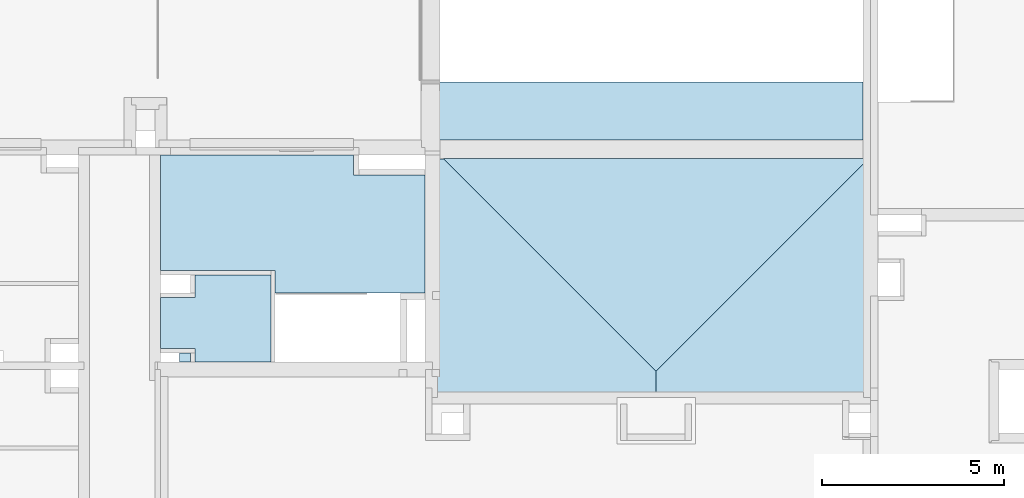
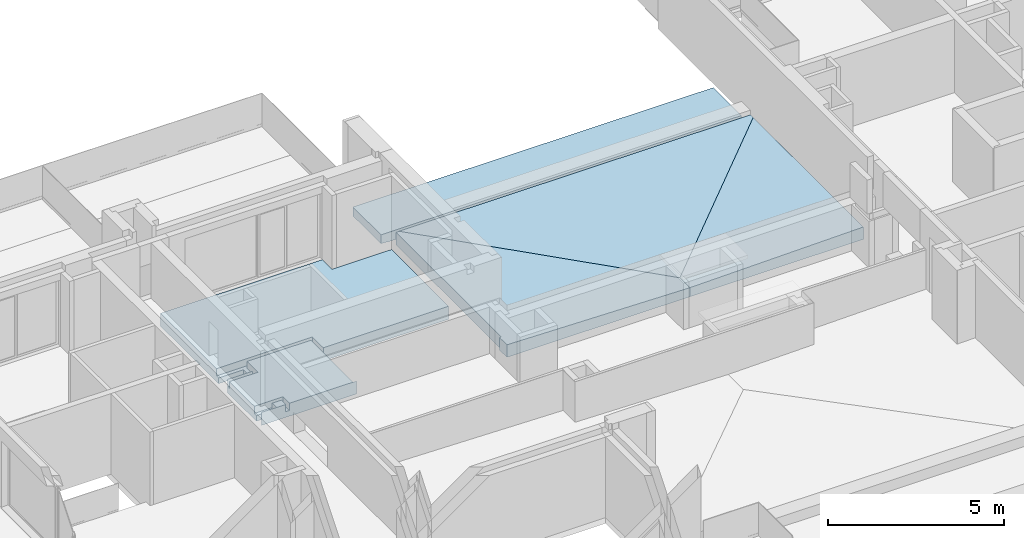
# One storey, part 5 of 30: 5 slabs.
"""IFC2X3 building model written with IfcOpenShell, lengths in millimetres."""

from ifc_helpers import new_model, entity, si_unit, converted_unit, derived_unit, money_unit, direction, frame, origin_with_axes, place, context, subcontext, project, spatial, faceted_brep, material, material_list, type_object, element, save


model = new_model("IFC2X3")

# Units and contexts
model_context = context("Model", 3, precision=0.01, world=origin_with_axes(), true_north=direction((0.34421633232, 0.938890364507)))
body_context = subcontext(model_context, "Body", "Model", "MODEL_VIEW")
ifc_project = project(units=[si_unit("LENGTHUNIT", "METRE", prefix="MILLI"), si_unit("AREAUNIT", "SQUARE_METRE"), si_unit("VOLUMEUNIT", "CUBIC_METRE"), converted_unit("PLANEANGLEUNIT", "DEGREE", entity("IfcPlaneAngleMeasure", 0.0174532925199), si_unit("PLANEANGLEUNIT", "RADIAN"), dimensions=[0, 0, 0, 0, 0, 0, 0]), si_unit("SOLIDANGLEUNIT", "STERADIAN"), money_unit("USD"), converted_unit("TIMEUNIT", "Year", entity("IfcTimeMeasure", 31556926.0), si_unit("TIMEUNIT", "SECOND"), dimensions=[0, 0, 1, 0, 0, 0, 0]), si_unit("MASSUNIT", "GRAM", prefix="KILO"), si_unit("THERMODYNAMICTEMPERATUREUNIT", "DEGREE_CELSIUS"), si_unit("LUMINOUSINTENSITYUNIT", "LUMEN"), si_unit("ENERGYUNIT", "JOULE", prefix="MEGA"), derived_unit("THERMALCONDUCTANCEUNIT", [(si_unit("POWERUNIT", "WATT"), 1), (si_unit("LENGTHUNIT", "METRE"), -1), (si_unit("THERMODYNAMICTEMPERATUREUNIT", "KELVIN"), -1)]), derived_unit("SPECIFICHEATCAPACITYUNIT", [(si_unit("ENERGYUNIT", "JOULE"), 1), (si_unit("MASSUNIT", "GRAM", prefix="KILO"), -1), (si_unit("THERMODYNAMICTEMPERATUREUNIT", "KELVIN"), -1)]), derived_unit("MASSDENSITYUNIT", [(si_unit("MASSUNIT", "GRAM", prefix="KILO"), 1), (si_unit("VOLUMEUNIT", "CUBIC_METRE"), -1)])], contexts=[model_context])

# Site, building, storey
site_placement = place(None, origin_with_axes())
site = spatial("IfcSite", under=ifc_project, at=site_placement, Name="USTRONIE MORSKIE", CompositionType="ELEMENT")
building_placement = place(site_placement, origin_with_axes())
building = spatial("IfcBuilding", under=site, at=building_placement, Name="Budynek", CompositionType="ELEMENT")
storey_placement = place(building_placement, frame((0.0, 0.0, 16000.0), z_axis=(0.0, 0.0, 1.0), x_axis=(1.0, 0.0, 0.0)))
storey = spatial("IfcBuildingStorey", under=building, at=storey_placement, Name="ANTRESOLA - KOND. TECHNICZNA", CompositionType="ELEMENT", Elevation=16000.0)

# Slabs
ifc_material_1 = material(Name="Płytki okładzinowe")
ifc_material_2 = material(Name="Pustka powietrzna")
ifc_material_3 = material(Name="Membrana przeciwwilgociowa")
ifc_material_4 = material(Name="Beton konstrukcyjny B25")
ifc_material_5 = material(Name="Laminat")
ifc_material_list_1 = material_list([ifc_material_1, ifc_material_2, ifc_material_3, ifc_material_4, ifc_material_5])
slab_type_1 = type_object("IfcSlabType", Name="Balkony na HALFENACH 330", PredefinedType="FLOOR")
slab_1_placement = place(storey_placement, frame((379007.920919, 746601.194135, -50.0000020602), z_axis=(0.0, 0.0, 1.0), x_axis=(1.0, 0.0, 0.0)))
element("IfcSlab", 1, at=slab_1_placement, inside=storey, type_object=slab_type_1, material=ifc_material_list_1, Name="P3", PredefinedType="FLOOR", context=body_context, shape_type="Brep", body=[
    faceted_brep([(0.0, 0.0, -25.0), (-11840.0, 0.0, -25.0), (-11840.0, 0.0, 0.0), (0.0, 0.0, 0.0), (0.0, -1599.99481134, -25.0), (-11840.0, -1599.99481134, -25.0), (-11840.0, -1599.99481134, 0.0), (0.0, -1599.99481134, 0.0)], [[[0, 1, 2, 3]], [[1, 0, 4, 5]], [[1, 5, 6, 2]], [[7, 3, 2, 6]], [[4, 0, 3, 7]], [[5, 4, 7, 6]]]),
    faceted_brep([(0.0, 0.0, -105.0), (-11840.0, 0.0, -105.0), (-11840.0, 0.0, -25.0), (0.0, 0.0, -25.0), (0.0, -1599.99481134, -105.0), (-11840.0, -1599.99481134, -105.0), (-11840.0, -1599.99481134, -25.0), (0.0, -1599.99481134, -25.0)], [[[0, 1, 2, 3]], [[1, 0, 4, 5]], [[1, 5, 6, 2]], [[7, 3, 2, 6]], [[4, 0, 3, 7]], [[5, 4, 7, 6]]]),
    faceted_brep([(0.0, 0.0, -110.0), (-11840.0, 0.0, -110.0), (-11840.0, 0.0, -105.0), (0.0, 0.0, -105.0), (0.0, -1599.99481134, -110.0), (-11840.0, -1599.99481134, -110.0), (-11840.0, -1599.99481134, -105.0), (0.0, -1599.99481134, -105.0)], [[[0, 1, 2, 3]], [[1, 0, 4, 5]], [[1, 5, 6, 2]], [[7, 3, 2, 6]], [[4, 0, 3, 7]], [[5, 4, 7, 6]]]),
    faceted_brep([(-11840.0, 0.0, -310.0), (-11840.0, 0.0, -110.0), (0.0, 0.0, -110.0), (0.0, 0.0, -310.0), (-11840.0, -1599.99481134, -310.0), (-11840.0, -1599.99481134, -110.0), (0.0, -1599.99481134, -110.0), (0.0, -1599.99481134, -310.0)], [[[0, 1, 2, 3]], [[4, 5, 1, 0]], [[2, 1, 5, 6]], [[3, 2, 6, 7]], [[3, 7, 4, 0]], [[7, 6, 5, 4]]]),
    faceted_brep([(-11630.0, 0.0, -330.0), (-11630.0, 0.0, -309.99999794), (0.0, 0.0, -310.0), (0.0, 0.0, -330.0), (-11630.0, -1589.99481316, -309.99999794), (-11630.0, -1589.99481316, -330.0), (0.0, -1589.99481316, -310.0), (0.0, -1589.99481316, -330.0)], [[[0, 1, 2, 3]], [[4, 1, 0, 5]], [[1, 4, 6, 2]], [[6, 7, 3, 2]], [[5, 0, 3, 7]], [[4, 5, 7, 6]]]),
])
ifc_material_6 = material(Name="Okładzina kamienna")
ifc_material_7 = material(Name="Żwir")
ifc_material_8 = material(Name="Membrana hydroizolacyjna")
ifc_material_9 = material(Name="Termoizolacja PIR")
ifc_material_list_2 = material_list([ifc_material_6, ifc_material_7, ifc_material_8, ifc_material_9, ifc_material_9])
slab_type_2 = type_object("IfcSlabType", Name="509-PS STROP DACH BALAST 560", PredefinedType="ROOF")
slab_2_placement = place(storey_placement, frame((373267.920945, 740406.079461, -400.0), z_axis=(0.0, 0.0, 1.0), x_axis=(-5.50732422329e-09, -1.0, 0.0)))
element("IfcSlab", 2, at=slab_2_placement, inside=storey, type_object=slab_type_2, material=ifc_material_list_2, Name="DA3", PredefinedType="ROOF", context=body_context, shape_type="Brep", body=[
    faceted_brep([(-4085.11954294, -5900.00009485, 678.111990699), (1904.88043154, -5900.00006186, 678.11199004), (1904.88043187, -5960.00006843, 679.311990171), (2324.87958065, -5960.00006612, 679.311990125), (2324.87954755, 49.999977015, 559.111989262), (1754.8804322, 49.9999738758, 559.111989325), (-4085.11954355, -5789.99996651, 675.911988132), (-4085.11954295, -5900.00009486, 658.107991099), (1904.88043152, -5900.00006185, 658.107990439), (1904.88043187, -5960.00006845, 659.307990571), (2324.87958065, -5960.00006611, 659.307990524), (2324.87954753, 49.9999770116, 539.107989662), (1754.88043221, 49.9999738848, 539.107989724), (-4085.11954357, -5789.9999665, 655.907988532)], [[[0, 1, 2, 3, 4, 5, 6]], [[0, 7, 8, 1]], [[1, 8, 9, 2]], [[2, 9, 10, 3]], [[3, 10, 11, 4]], [[4, 11, 12, 5]], [[5, 12, 13, 6]], [[6, 13, 7, 0]], [[7, 13, 12, 11, 10, 9, 8]]]),
    faceted_brep([(-4085.11954357, -5789.9999665, 655.907988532), (-4085.11954364, -5789.99996645, 575.891990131), (-4085.11954297, -5900.00009487, 578.091992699), (-4085.11954295, -5900.00009486, 658.107991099), (1754.88043221, 49.9999738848, 539.107989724), (1754.88043228, 49.9999739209, 459.091991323), (2324.87954748, 49.9999769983, 459.091991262), (2324.87958066, -5960.0000661, 579.291992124), (1904.88043187, -5960.0000685, 579.291992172), (1904.88043144, -5900.00006178, 578.091992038), (1904.88043152, -5900.00006185, 658.107990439), (1904.88043187, -5960.00006845, 659.307990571), (2324.87958065, -5960.00006611, 659.307990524), (2324.87954753, 49.9999770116, 539.107989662)], [[[0, 1, 2, 3]], [[4, 5, 1, 0]], [[2, 1, 5, 6, 7, 8, 9]], [[3, 2, 9, 10]], [[3, 10, 11, 12, 13, 4, 0]], [[13, 6, 5, 4]], [[12, 7, 6, 13]], [[11, 8, 7, 12]], [[10, 9, 8, 11]]]),
    faceted_brep([(-4085.11954364, -5789.99996645, 575.891990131), (-4085.11954365, -5789.99996645, 565.889990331), (-4085.11954298, -5900.00009487, 568.089992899), (-4085.11954297, -5900.00009487, 578.091992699), (1754.88043228, 49.9999739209, 459.091991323), (1754.88043229, 49.9999739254, 449.089991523), (2324.87954747, 49.9999769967, 449.089991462), (2324.87958066, -5960.0000661, 569.289992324), (1904.88043188, -5960.00006851, 569.289992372), (1904.88043143, -5900.00006178, 568.089992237), (1904.88043144, -5900.00006178, 578.091992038), (1904.88043187, -5960.0000685, 579.291992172), (2324.87958066, -5960.0000661, 579.291992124), (2324.87954748, 49.9999769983, 459.091991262)], [[[0, 1, 2, 3]], [[4, 5, 1, 0]], [[2, 1, 5, 6, 7, 8, 9]], [[3, 2, 9, 10]], [[3, 10, 11, 12, 13, 4, 0]], [[13, 6, 5, 4]], [[12, 7, 6, 13]], [[11, 8, 7, 12]], [[10, 9, 8, 11]]]),
    faceted_brep([(-4085.11954365, -5789.99996645, 565.889990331), (-4085.11954378, -5789.99996637, 415.859993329), (-4085.11954302, -5900.00009489, 418.059995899), (-4085.11954298, -5900.00009487, 568.089992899), (1754.88043229, 49.9999739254, 449.089991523), (1754.88043241, 49.9999739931, 299.059994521), (2324.87954737, 49.9999769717, 299.059994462), (2324.87958067, -5960.00006608, 419.259995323), (1904.88043188, -5960.00006861, 419.259995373), (1904.88043127, -5900.00006166, 418.059995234), (1904.88043143, -5900.00006178, 568.089992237), (1904.88043188, -5960.00006851, 569.289992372), (2324.87958066, -5960.0000661, 569.289992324), (2324.87954747, 49.9999769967, 449.089991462)], [[[0, 1, 2, 3]], [[4, 5, 1, 0]], [[2, 1, 5, 6, 7, 8, 9]], [[3, 2, 9, 10]], [[3, 10, 11, 12, 13, 4, 0]], [[13, 6, 5, 4]], [[12, 7, 6, 13]], [[11, 8, 7, 12]], [[10, 9, 8, 11]]]),
    faceted_brep([(2324.87954734, 49.9999769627, 245.0), (1754.88043246, 49.9999740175, 245.0), (1754.88043241, 49.9999739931, 299.059994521), (2324.87954737, 49.9999769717, 299.059994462), (-4085.11954392, -5789.99996627, 245.0), (2324.87958069, -5960.00006605, 245.0), (1904.88043189, -5960.00006873, 245.0), (1904.88043109, -5900.00006152, 245.0), (-4085.11954307, -5900.00009492, 245.0), (-4085.11954378, -5789.99996637, 415.859993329), (-4085.11954302, -5900.00009489, 418.059995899), (1904.88043127, -5900.00006166, 418.059995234), (1904.88043188, -5960.00006861, 419.259995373), (2324.87958067, -5960.00006608, 419.259995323)], [[[0, 1, 2, 3]], [[4, 1, 0, 5, 6, 7, 8]], [[1, 4, 9, 2]], [[9, 10, 11, 12, 13, 3, 2]], [[5, 0, 3, 13]], [[6, 5, 13, 12]], [[7, 6, 12, 11]], [[8, 7, 11, 10]], [[4, 8, 10, 9]]]),
])
slab_3_placement = place(storey_placement, frame((373367.920904, 738396.199224, -400.0), z_axis=(0.0, 0.0, 1.0), x_axis=(-5.50732422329e-09, 1.0, 0.0)))
element("IfcSlab", 3, at=slab_3_placement, inside=storey, type_object=slab_type_2, material=ifc_material_list_2, Name="DA3", PredefinedType="ROOF", context=body_context, shape_type="Brep", body=[
    faceted_brep([(5954.99980931, -5650.00009687, 673.11199074), (254.999813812, 49.9999614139, 559.111989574), (-314.999271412, 49.9999645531, 559.111989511), (-314.999302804, -5650.00006234, 673.111990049), (5954.99980933, -5650.00009689, 653.10799114), (254.999813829, 49.9999614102, 539.107989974), (-314.999271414, 49.999964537, 539.107989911), (-314.999302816, -5650.00006232, 653.107990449)], [[[0, 1, 2, 3]], [[0, 4, 5, 1]], [[1, 5, 6, 2]], [[2, 6, 7, 3]], [[3, 7, 4, 0]], [[4, 7, 6, 5]]]),
    faceted_brep([(-314.999302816, -5650.00006232, 653.107990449), (-314.999302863, -5650.00006226, 573.091992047), (5954.9998094, -5650.00009694, 573.091992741), (5954.99980933, -5650.00009689, 653.10799114), (-314.999271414, 49.999964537, 539.107989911), (-314.999271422, 49.9999644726, 459.091991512), (254.999813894, 49.9999613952, 459.091991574), (254.999813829, 49.9999614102, 539.107989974)], [[[0, 1, 2, 3]], [[4, 5, 1, 0]], [[2, 1, 5, 6]], [[3, 2, 6, 7]], [[3, 7, 4, 0]], [[7, 6, 5, 4]]]),
    faceted_brep([(-314.999302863, -5650.00006226, 573.091992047), (-314.999302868, -5650.00006225, 563.089992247), (5954.99980941, -5650.00009695, 563.089992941), (5954.9998094, -5650.00009694, 573.091992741), (-314.999271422, 49.9999644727, 459.091991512), (-314.999271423, 49.9999644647, 449.089991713), (254.999813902, 49.9999613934, 449.089991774), (254.999813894, 49.9999613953, 459.091991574)], [[[0, 1, 2, 3]], [[4, 5, 1, 0]], [[2, 1, 5, 6]], [[3, 2, 6, 7]], [[3, 7, 4, 0]], [[7, 6, 5, 4]]]),
    faceted_brep([(-314.999302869, -5650.00006225, 563.089992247), (-314.999302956, -5650.00006213, 413.059995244), (5954.99980954, -5650.00009705, 413.059995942), (5954.99980941, -5650.00009695, 563.089992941), (-314.999271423, 49.9999644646, 449.089991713), (-314.999271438, 49.999964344, 299.059994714), (254.999814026, 49.9999613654, 299.059994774), (254.999813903, 49.9999613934, 449.089991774)], [[[0, 1, 2, 3]], [[4, 5, 1, 0]], [[2, 1, 5, 6]], [[3, 2, 6, 7]], [[3, 7, 4, 0]], [[7, 6, 5, 4]]]),
    faceted_brep([(-314.999303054, -5650.00006199, 245.0), (5954.99980969, -5650.00009717, 245.0), (5954.99980954, -5650.00009705, 413.059995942), (-314.999302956, -5650.00006213, 413.059995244), (254.99981407, 49.9999613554, 245.0), (-314.999271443, 49.9999643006, 245.0), (254.999814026, 49.9999613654, 299.059994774), (-314.999271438, 49.999964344, 299.059994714)], [[[0, 1, 2, 3]], [[4, 1, 0, 5]], [[1, 4, 6, 2]], [[3, 2, 6, 7]], [[5, 0, 3, 7]], [[4, 5, 7, 6]]]),
])
slab_4_placement = place(storey_placement, frame((375072.80134, 738701.19901, -400.0), z_axis=(0.0, 0.0, 1.0), x_axis=(-1.0, 5.50521486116e-09, 0.0)))
element("IfcSlab", 4, at=slab_4_placement, inside=storey, type_object=slab_type_2, material=ifc_material_list_2, Name="DA3", PredefinedType="ROOF", context=body_context, shape_type="Brep", body=[
    faceted_brep([(-3945.11954663, -5800.00004798, 676.111989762), (7604.88033191, -5799.9999844, 676.11198849), (1754.8804727, 49.9999833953, 559.111989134), (-3945.11954746, -5650.00009952, 673.111990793), (-3945.11954665, -5800.000048, 656.107990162), (7604.88033191, -5799.99998439, 656.10798889), (1754.88047271, 49.9999834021, 539.107989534), (-3945.11954747, -5650.00009952, 653.107991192)], [[[0, 1, 2, 3]], [[0, 4, 5, 1]], [[1, 5, 6, 2]], [[2, 6, 7, 3]], [[3, 7, 4, 0]], [[4, 7, 6, 5]]]),
    faceted_brep([(-3945.11954747, -5650.00009952, 653.107991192), (-3945.11954754, -5650.00009949, 573.091992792), (-3945.1195467, -5800.00004805, 576.091991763), (-3945.11954665, -5800.000048, 656.107990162), (1754.88047271, 49.9999834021, 539.107989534), (1754.88047273, 49.9999834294, 459.091991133), (7604.88033191, -5799.99998435, 576.091990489), (7604.88033191, -5799.99998439, 656.10798889)], [[[0, 1, 2, 3]], [[4, 5, 1, 0]], [[2, 1, 5, 6]], [[3, 2, 6, 7]], [[3, 7, 4, 0]], [[7, 6, 5, 4]]]),
    faceted_brep([(-3945.11954754, -5650.00009949, 573.091992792), (-3945.11954755, -5650.00009948, 563.089992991), (-3945.1195467, -5800.00004806, 566.089991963), (-3945.1195467, -5800.00004805, 576.091991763), (1754.88047273, 49.9999834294, 459.091991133), (1754.88047274, 49.9999834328, 449.089991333), (7604.88033191, -5799.99998435, 566.089990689), (7604.88033191, -5799.99998435, 576.091990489)], [[[0, 1, 2, 3]], [[4, 5, 1, 0]], [[2, 1, 5, 6]], [[3, 2, 6, 7]], [[3, 7, 4, 0]], [[7, 6, 5, 4]]]),
    faceted_brep([(-3945.11954755, -5650.00009948, 563.089992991), (-3945.11954767, -5650.00009943, 413.05999599), (-3945.1195468, -5800.00004817, 416.059994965), (-3945.1195467, -5800.00004806, 566.089991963), (1754.88047274, 49.9999834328, 449.089991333), (1754.88047278, 49.999983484, 299.059994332), (7604.88033192, -5799.99998427, 416.059993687), (7604.88033191, -5799.99998435, 566.089990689)], [[[0, 1, 2, 3]], [[4, 5, 1, 0]], [[2, 1, 5, 6]], [[3, 2, 6, 7]], [[3, 7, 4, 0]], [[7, 6, 5, 4]]]),
    faceted_brep([(-3945.11954781, -5650.00009937, 245.0), (-3945.1195469, -5800.00004828, 245.0), (-3945.1195468, -5800.00004817, 416.059994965), (-3945.11954767, -5650.00009943, 413.05999599), (7604.88033192, -5799.99998419, 245.0), (1754.8804728, 49.9999835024, 245.0), (7604.88033192, -5799.99998427, 416.059993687), (1754.88047278, 49.999983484, 299.059994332)], [[[0, 1, 2, 3]], [[4, 1, 0, 5]], [[1, 4, 6, 2]], [[3, 2, 6, 7]], [[5, 0, 3, 7]], [[4, 5, 7, 6]]]),
])
ifc_material_10 = material(Name="Płytki podłogowe")
ifc_material_11 = material(Name="Klej elastyczny")
ifc_material_12 = material(Name="Wylewka")
ifc_material_13 = material(Name="Płyty styropianowe EPS PODŁOGA")
ifc_material_14 = material(Name="STROP monolityczny")
ifc_material_list_3 = material_list([ifc_material_10, ifc_material_11, ifc_material_12, ifc_material_13, ifc_material_14])
slab_type_3 = type_object("IfcSlabType", Name="503-PS STROP ANTRESOLA 450", PredefinedType="FLOOR")
slab_5_placement = place(storey_placement, frame((362537.920929, 744601.199103, 90.0), z_axis=(0.0, 0.0, 1.0), x_axis=(1.0, 0.0, 0.0)))
element("IfcSlab", 5, at=slab_5_placement, inside=storey, type_object=slab_type_3, material=ifc_material_list_3, Name="P5", PredefinedType="FLOOR", context=body_context, shape_type="Brep", body=[
    faceted_brep([(-2019.99821577, -3800.01962649, 0.0), (-2019.99821577, -3799.9991624, 0.0), (-2840.00001041, -3800.01962649, 0.0), (-2019.99821577, -3799.9991624, -10.0), (-2019.99821577, -3800.01962649, -10.0), (-2840.00001041, -3800.01962649, -10.0)], [[[0, 1, 2]], [[3, 1, 0, 4]], [[1, 3, 5, 2]], [[4, 0, 2, 5]], [[3, 4, 5]]]),
    faceted_brep([(-2019.99821577, -5700.00006647, 0.0), (-2019.99821577, -5450.00006647, 0.0), (-2319.99822406, -5450.00006647, 0.0), (-2319.99822406, -5699.99053306, 0.0), (-2820.00002434, -5699.99053306, 0.0), (-2019.99821577, -5450.00006647, -10.0), (-2019.99821577, -5700.00006647, -10.0), (-2319.99822406, -5450.00006647, -10.0), (-2319.99822406, -5699.99053306, -10.0), (-2820.00002434, -5699.99053306, -10.0)], [[[0, 1, 2, 3, 4]], [[5, 1, 0, 6]], [[1, 5, 7, 2]], [[3, 2, 7, 8]], [[3, 8, 9, 4]], [[6, 0, 4, 9]], [[5, 6, 9, 8, 7]]]),
    faceted_brep([(189.999945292, -3300.01872532, -10.0), (189.999945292, -3300.01872532, 0.0), (189.999945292, -5700.00006647, 0.0), (189.999945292, -5700.00006647, -10.0), (-1899.99821577, -3300.01872532, 0.0), (-1899.99821577, -3300.01872532, -10.0), (-1899.99821577, -3800.01962649, 0.0), (-1899.99821577, -3920.01962649, 0.0), (-2840.00001041, -3920.01962649, 0.0), (-2840.00001041, -5330.00006647, 0.0), (-1899.99821577, -5330.00006647, 0.0), (-1899.99821577, -5450.00006647, 0.0), (-1899.99821577, -5700.00006647, 0.0), (309.999973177, -5700.02035031, 0.0), (309.999945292, -5700.00006647, 0.0), (309.999945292, -5700.00006647, -10.0), (309.999973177, -5700.02035031, -10.0), (-1899.99821577, -5700.00006647, -10.0), (-1899.99821577, -5450.00006647, -10.0), (-1899.99821577, -5330.00006647, -10.0), (-2840.00001041, -5330.00006647, -10.0), (-2840.00001041, -3920.01962649, -10.0), (-1899.99821577, -3920.01962649, -10.0), (-1899.99821577, -3800.01962649, -10.0)], [[[0, 1, 2, 3]], [[4, 1, 0, 5]], [[1, 4, 6, 7, 8, 9, 10, 11, 12, 13, 14, 2]], [[14, 15, 3, 2]], [[5, 0, 3, 15, 16, 17, 18, 19, 20, 21, 22, 23]], [[4, 5, 23, 6]], [[23, 22, 7, 6]], [[21, 8, 7, 22]], [[8, 21, 20, 9]], [[20, 19, 10, 9]], [[18, 11, 10, 19]], [[12, 11, 18, 17]], [[12, 17, 16, 13]], [[14, 13, 16, 15]]]),
    faceted_brep([(189.999945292, -3180.01872532, 0.0), (309.999945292, -3180.01872532, 0.0), (309.999945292, -3800.01958074, 0.0), (4429.99998959, -3800.01958074, 0.0), (4429.99998959, -550.000066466, 0.0), (2619.98081995, -550.000066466, 0.0), (2469.98081995, -550.000066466, 0.0), (2469.98081995, -6.64667823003e-05, 0.0), (-2840.00121271, 0.0, 0.0), (-2840.00001041, -3180.01872532, 0.0), (189.999945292, -3180.01872532, -10.0), (309.999945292, -3180.01872532, -10.0), (309.999945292, -3800.01958074, -10.0), (4429.99998959, -3800.01958074, -10.0), (4429.99998959, -550.000066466, -10.0), (2619.98081995, -550.000066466, -10.0), (2469.98081995, -550.000066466, -10.0), (2469.98081995, -6.64667823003e-05, -10.0), (-2840.00121271, 0.0, -10.0), (-2840.00001041, -3180.01872532, -10.0)], [[[0, 1, 2, 3, 4, 5, 6, 7, 8, 9]], [[0, 10, 11, 1]], [[11, 12, 2, 1]], [[13, 3, 2, 12]], [[3, 13, 14, 4]], [[14, 15, 5, 4]], [[16, 6, 5, 15]], [[7, 6, 16, 17]], [[17, 18, 8, 7]], [[18, 19, 9, 8]], [[10, 0, 9, 19]], [[10, 19, 18, 17, 16, 15, 14, 13, 12, 11]]]),
    faceted_brep([(-2019.99821577, -3800.01962649, -10.0), (-2019.99821577, -3799.9991624, -10.0), (-2840.00001041, -3800.01962649, -10.0), (-2019.99821577, -3799.9991624, -15.0), (-2019.99821577, -3800.01962649, -15.0), (-2840.00001041, -3800.01962649, -15.0)], [[[0, 1, 2]], [[3, 1, 0, 4]], [[1, 3, 5, 2]], [[4, 0, 2, 5]], [[3, 4, 5]]]),
    faceted_brep([(-2019.99821577, -5700.00006647, -10.0), (-2019.99821577, -5450.00006647, -10.0), (-2319.99822406, -5450.00006647, -10.0), (-2319.99822406, -5699.99053306, -10.0), (-2820.00002434, -5699.99053306, -10.0), (-2019.99821577, -5450.00006647, -15.0), (-2019.99821577, -5700.00006647, -15.0), (-2319.99822406, -5450.00006647, -15.0), (-2319.99822406, -5699.99053306, -15.0), (-2820.00002434, -5699.99053306, -15.0)], [[[0, 1, 2, 3, 4]], [[5, 1, 0, 6]], [[1, 5, 7, 2]], [[3, 2, 7, 8]], [[3, 8, 9, 4]], [[6, 0, 4, 9]], [[5, 6, 9, 8, 7]]]),
    faceted_brep([(189.999945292, -3300.01872532, -15.0), (189.999945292, -3300.01872532, -10.0), (189.999945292, -5700.00006647, -10.0), (189.999945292, -5700.00006647, -15.0), (-1899.99821577, -3300.01872532, -10.0), (-1899.99821577, -3300.01872532, -15.0), (-1899.99821577, -3800.01962649, -10.0), (-1899.99821577, -3920.01962649, -10.0), (-2840.00001041, -3920.01962649, -10.0), (-2840.00001041, -5330.00006647, -10.0), (-1899.99821577, -5330.00006647, -10.0), (-1899.99821577, -5450.00006647, -10.0), (-1899.99821577, -5700.00006647, -10.0), (309.999973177, -5700.02035031, -10.0), (309.999945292, -5700.00006647, -10.0), (309.999945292, -5700.00006647, -15.0), (309.999973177, -5700.02035031, -15.0), (-1899.99821577, -5700.00006647, -15.0), (-1899.99821577, -5450.00006647, -15.0), (-1899.99821577, -5330.00006647, -15.0), (-2840.00001041, -5330.00006647, -15.0), (-2840.00001041, -3920.01962649, -15.0), (-1899.99821577, -3920.01962649, -15.0), (-1899.99821577, -3800.01962649, -15.0)], [[[0, 1, 2, 3]], [[4, 1, 0, 5]], [[1, 4, 6, 7, 8, 9, 10, 11, 12, 13, 14, 2]], [[14, 15, 3, 2]], [[5, 0, 3, 15, 16, 17, 18, 19, 20, 21, 22, 23]], [[4, 5, 23, 6]], [[23, 22, 7, 6]], [[21, 8, 7, 22]], [[8, 21, 20, 9]], [[20, 19, 10, 9]], [[18, 11, 10, 19]], [[12, 11, 18, 17]], [[12, 17, 16, 13]], [[14, 13, 16, 15]]]),
    faceted_brep([(189.999945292, -3180.01872532, -10.0), (309.999945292, -3180.01872532, -10.0), (309.999945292, -3800.01958074, -10.0), (4429.99998959, -3800.01958074, -10.0), (4429.99998959, -550.000066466, -10.0), (2619.98081995, -550.000066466, -10.0), (2469.98081995, -550.000066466, -10.0), (2469.98081995, -6.64667823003e-05, -10.0), (-2840.00121271, 0.0, -10.0), (-2840.00001041, -3180.01872532, -10.0), (189.999945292, -3180.01872532, -15.0), (309.999945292, -3180.01872532, -15.0), (309.999945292, -3800.01958074, -15.0), (4429.99998959, -3800.01958074, -15.0), (4429.99998959, -550.000066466, -15.0), (2619.98081995, -550.000066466, -15.0), (2469.98081995, -550.000066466, -15.0), (2469.98081995, -6.64667823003e-05, -15.0), (-2840.00121271, 0.0, -15.0), (-2840.00001041, -3180.01872532, -15.0)], [[[0, 1, 2, 3, 4, 5, 6, 7, 8, 9]], [[0, 10, 11, 1]], [[11, 12, 2, 1]], [[13, 3, 2, 12]], [[3, 13, 14, 4]], [[14, 15, 5, 4]], [[16, 6, 5, 15]], [[7, 6, 16, 17]], [[17, 18, 8, 7]], [[18, 19, 9, 8]], [[10, 0, 9, 19]], [[10, 19, 18, 17, 16, 15, 14, 13, 12, 11]]]),
    faceted_brep([(-2019.99821577, -3800.01962649, -15.0), (-2019.99821577, -3799.9991624, -15.0), (-2840.00001041, -3800.01962649, -15.0), (-2019.99821577, -3799.9991624, -100.0), (-2019.99821577, -3800.01962649, -100.0), (-2840.00001041, -3800.01962649, -100.0)], [[[0, 1, 2]], [[3, 1, 0, 4]], [[1, 3, 5, 2]], [[4, 0, 2, 5]], [[3, 4, 5]]]),
    faceted_brep([(-2019.99821577, -5700.00006647, -15.0), (-2019.99821577, -5450.00006647, -15.0), (-2319.99822406, -5450.00006647, -15.0), (-2319.99822406, -5699.99053306, -15.0), (-2820.00002434, -5699.99053306, -15.0), (-2019.99821577, -5450.00006647, -100.0), (-2019.99821577, -5700.00006647, -100.0), (-2319.99822406, -5450.00006647, -100.0), (-2319.99822406, -5699.99053306, -100.0), (-2820.00002434, -5699.99053306, -100.0)], [[[0, 1, 2, 3, 4]], [[5, 1, 0, 6]], [[1, 5, 7, 2]], [[3, 2, 7, 8]], [[3, 8, 9, 4]], [[6, 0, 4, 9]], [[5, 6, 9, 8, 7]]]),
    faceted_brep([(189.999945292, -3300.01872532, -100.0), (189.999945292, -3300.01872532, -15.0), (189.999945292, -5700.00006647, -15.0), (189.999945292, -5700.00006647, -100.0), (-1899.99821577, -3300.01872532, -15.0), (-1899.99821577, -3300.01872532, -100.0), (-1899.99821577, -3800.01962649, -15.0), (-1899.99821577, -3920.01962649, -15.0), (-2840.00001041, -3920.01962649, -15.0), (-2840.00001041, -5330.00006647, -15.0), (-1899.99821577, -5330.00006647, -15.0), (-1899.99821577, -5450.00006647, -15.0), (-1899.99821577, -5700.00006647, -15.0), (309.999973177, -5700.02035031, -15.0), (309.999945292, -5700.00006647, -15.0), (309.999945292, -5700.00006647, -100.0), (309.999973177, -5700.02035031, -100.0), (-1899.99821577, -5700.00006647, -100.0), (-1899.99821577, -5450.00006647, -100.0), (-1899.99821577, -5330.00006647, -100.0), (-2840.00001041, -5330.00006647, -100.0), (-2840.00001041, -3920.01962649, -100.0), (-1899.99821577, -3920.01962649, -100.0), (-1899.99821577, -3800.01962649, -100.0)], [[[0, 1, 2, 3]], [[4, 1, 0, 5]], [[1, 4, 6, 7, 8, 9, 10, 11, 12, 13, 14, 2]], [[14, 15, 3, 2]], [[5, 0, 3, 15, 16, 17, 18, 19, 20, 21, 22, 23]], [[4, 5, 23, 6]], [[23, 22, 7, 6]], [[21, 8, 7, 22]], [[8, 21, 20, 9]], [[20, 19, 10, 9]], [[18, 11, 10, 19]], [[12, 11, 18, 17]], [[12, 17, 16, 13]], [[14, 13, 16, 15]]]),
    faceted_brep([(189.999945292, -3180.01872532, -15.0), (309.999945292, -3180.01872532, -15.0), (309.999945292, -3800.01958074, -15.0), (4429.99998959, -3800.01958074, -15.0), (4429.99998959, -550.000066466, -15.0), (2619.98081995, -550.000066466, -15.0), (2469.98081995, -550.000066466, -15.0), (2469.98081995, -6.64667823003e-05, -15.0), (-2840.00121271, 0.0, -15.0), (-2840.00001041, -3180.01872532, -15.0), (189.999945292, -3180.01872532, -100.0), (309.999945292, -3180.01872532, -100.0), (309.999945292, -3800.01958074, -100.0), (4429.99998959, -3800.01958074, -100.0), (4429.99998959, -550.000066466, -100.0), (2619.98081995, -550.000066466, -100.0), (2469.98081995, -550.000066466, -100.0), (2469.98081995, -6.64667823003e-05, -100.0), (-2840.00121271, 0.0, -100.0), (-2840.00001041, -3180.01872532, -100.0)], [[[0, 1, 2, 3, 4, 5, 6, 7, 8, 9]], [[0, 10, 11, 1]], [[11, 12, 2, 1]], [[13, 3, 2, 12]], [[3, 13, 14, 4]], [[14, 15, 5, 4]], [[16, 6, 5, 15]], [[7, 6, 16, 17]], [[17, 18, 8, 7]], [[18, 19, 9, 8]], [[10, 0, 9, 19]], [[10, 19, 18, 17, 16, 15, 14, 13, 12, 11]]]),
    faceted_brep([(-2019.99821577, -3800.01962649, -100.0), (-2019.99821577, -3799.9991624, -100.0), (-2840.00001041, -3800.01962649, -100.0), (-2019.99821577, -3799.9991624, -250.0), (-2019.99821577, -3800.01962649, -250.0), (-2840.00001041, -3800.01962649, -250.0)], [[[0, 1, 2]], [[3, 1, 0, 4]], [[1, 3, 5, 2]], [[4, 0, 2, 5]], [[3, 4, 5]]]),
    faceted_brep([(-2019.99821577, -5700.00006647, -100.0), (-2019.99821577, -5450.00006647, -100.0), (-2319.99822406, -5450.00006647, -100.0), (-2319.99822406, -5699.99053306, -100.0), (-2820.00002434, -5699.99053306, -100.0), (-2019.99821577, -5450.00006647, -250.0), (-2019.99821577, -5700.00006647, -250.0), (-2319.99822406, -5450.00006647, -250.0), (-2319.99822406, -5699.99053306, -250.0), (-2820.00002434, -5699.99053306, -250.0)], [[[0, 1, 2, 3, 4]], [[5, 1, 0, 6]], [[1, 5, 7, 2]], [[3, 2, 7, 8]], [[3, 8, 9, 4]], [[6, 0, 4, 9]], [[5, 6, 9, 8, 7]]]),
    faceted_brep([(189.999945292, -3300.01872532, -249.999998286), (189.999945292, -3300.01872532, -100.0), (189.999945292, -5700.00006647, -100.0), (189.999945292, -5700.00006647, -250.0), (-1899.99821577, -3300.01872532, -100.0), (-1899.99821577, -3300.01872532, -249.999998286), (-1899.99821577, -3800.01962649, -100.0), (-1899.99821577, -3920.01962649, -100.0), (-2840.00001041, -3920.01962649, -100.0), (-2840.00001041, -5330.00006647, -100.0), (-1899.99821577, -5330.00006647, -100.0), (-1899.99821577, -5450.00006647, -100.0), (-1899.99821577, -5700.00006647, -100.0), (309.999973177, -5700.02035031, -100.0), (309.999945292, -5700.00006647, -100.0), (309.999945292, -5700.00006647, -250.0), (309.999973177, -5700.02035031, -250.0), (-1899.99821577, -5700.00006647, -250.0), (-1899.99821577, -5450.00006647, -250.0), (-1899.99821577, -5330.00006647, -250.0), (-2840.00001041, -5330.00006647, -250.0), (-2840.00001041, -3920.01962649, -250.0), (-1899.99821577, -3920.01962649, -250.0), (-1899.99821577, -3800.01962649, -250.0)], [[[0, 1, 2, 3]], [[4, 1, 0, 5]], [[1, 4, 6, 7, 8, 9, 10, 11, 12, 13, 14, 2]], [[14, 15, 3, 2]], [[5, 0, 3, 15, 16, 17, 18, 19, 20, 21, 22, 23]], [[4, 5, 23, 6]], [[23, 22, 7, 6]], [[21, 8, 7, 22]], [[8, 21, 20, 9]], [[20, 19, 10, 9]], [[18, 11, 10, 19]], [[12, 11, 18, 17]], [[12, 17, 16, 13]], [[14, 13, 16, 15]]]),
    faceted_brep([(189.999945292, -3180.01872532, -100.0), (309.999945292, -3180.01872532, -100.0), (309.999945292, -3800.01958074, -100.0), (4429.99998959, -3800.01958074, -100.0), (4429.99998959, -550.000066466, -100.0), (2619.98081995, -550.000066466, -100.0), (2469.98081995, -550.000066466, -100.0), (2469.98081995, -6.64667823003e-05, -100.0), (-2840.00121271, 0.0, -100.0), (-2840.00001041, -3180.01872532, -100.0), (189.999945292, -3180.01872532, -249.999998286), (309.999945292, -3180.01872532, -250.0), (309.999945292, -3800.01958074, -250.0), (4429.99998959, -3800.01958074, -250.0), (4429.99998959, -550.000066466, -250.0), (2619.98081995, -550.000066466, -250.0), (2469.98081995, -550.000066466, -250.0), (2469.98081995, -6.64667823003e-05, -250.0), (-2840.00121271, 0.0, -250.0), (-2840.00001041, -3180.01872532, -249.999998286)], [[[0, 1, 2, 3, 4, 5, 6, 7, 8, 9]], [[0, 10, 11, 1]], [[11, 12, 2, 1]], [[13, 3, 2, 12]], [[3, 13, 14, 4]], [[14, 15, 5, 4]], [[16, 6, 5, 15]], [[7, 6, 16, 17]], [[17, 18, 8, 7]], [[18, 19, 9, 8]], [[10, 0, 9, 19]], [[10, 19, 18, 17, 16, 15, 14, 13, 12, 11]]]),
    faceted_brep([(0.0, 0.0, -450.0), (-2840.00121271, 0.0, -450.0), (-2840.00121271, 0.0, -250.0), (0.0, 0.0, -250.0), (2619.98078728, -0.000108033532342, -450.0), (2619.98078728, -400.00001418, -450.0), (4429.99998959, -400.00001418, -450.0), (4429.99998959, -3800.01958074, -450.0), (309.999973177, -3800.01958074, -450.0), (309.999973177, -5700.02035031, -450.0), (-2820.00002434, -5699.99053306, -450.0), (-2319.99822406, -5699.99053306, -450.0), (-2319.99822406, -5450.00005816, -450.0), (-2840.00001041, -5450.00005816, -450.0), (-2840.00001041, -3800.01920533, -450.0), (-2019.99826745, -3799.9991624, -450.0), (-2019.99826745, -3300.01875277, -450.0), (-2839.99948418, -3300.01875277, -450.0), (-2839.99948418, -3300.01875277, -250.0), (-2019.99826745, -3300.01875277, -250.0), (-2019.99826745, -3799.9991624, -250.0), (-2840.00001041, -3800.01920533, -250.0), (-2840.00001041, -5450.00005816, -250.0), (-2319.99822406, -5450.00005816, -250.0), (-2319.99822406, -5699.99053306, -250.0), (-2820.00002434, -5699.99053306, -250.0), (309.999973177, -5700.02035031, -250.0), (309.999973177, -3800.01958074, -250.0), (4429.99998959, -3800.01958074, -250.0), (4429.99998959, -400.00001418, -250.0), (2619.98078728, -400.00001418, -250.0), (2619.98078728, -0.000108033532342, -250.0)], [[[0, 1, 2, 3]], [[0, 4, 5, 6, 7, 8, 9, 10, 11, 12, 13, 14, 15, 16, 17, 1]], [[1, 17, 18, 2]], [[3, 2, 18, 19, 20, 21, 22, 23, 24, 25, 26, 27, 28, 29, 30, 31]], [[4, 0, 3, 31]], [[5, 4, 31, 30]], [[6, 5, 30, 29]], [[7, 6, 29, 28]], [[8, 7, 28, 27]], [[9, 8, 27, 26]], [[10, 9, 26, 25]], [[11, 10, 25, 24]], [[12, 11, 24, 23]], [[13, 12, 23, 22]], [[14, 13, 22, 21]], [[15, 14, 21, 20]], [[16, 15, 20, 19]], [[17, 16, 19, 18]]]),
])

save(model, "model.ifc")
